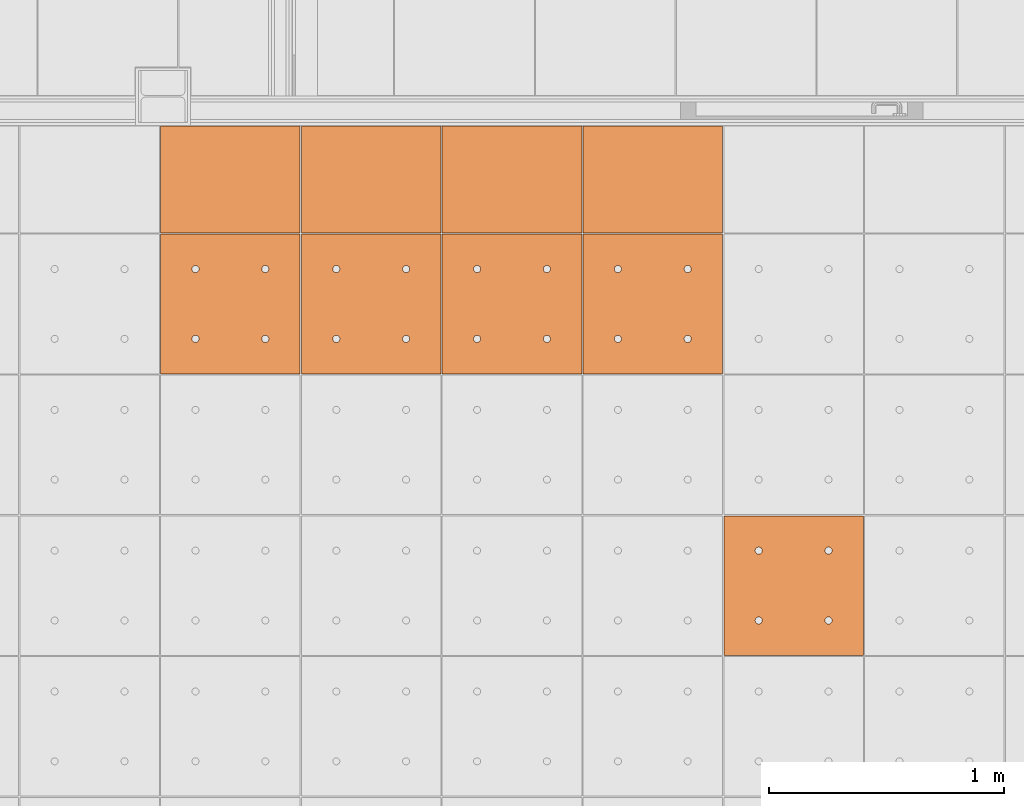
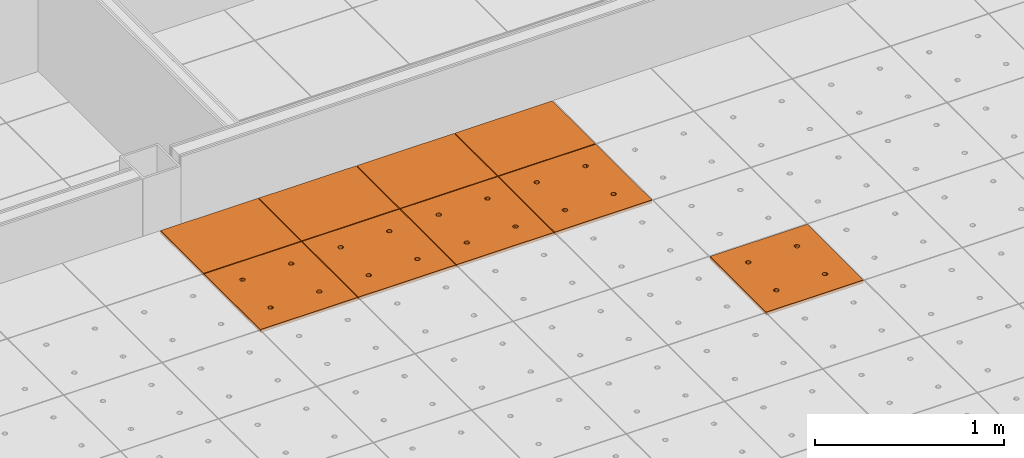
# One storey, part 264 of 338: 9 proxies, 1 element without a shape of its own.
"""IFC2X3 building model written with IfcOpenShell, lengths in millimetres."""

import ifcopenshell
import ifcopenshell.guid

model = None  # the IFC model being written
_history = None  # IfcOwnerHistory: only IFC2X3 demands one
_inside = {}  # id of a spatial element -> (the spatial element, [elements in it])
_under = {}  # id of a project, library or spatial element -> (it, [spatial elements below it])
_declared = {}  # id of a project -> (the project, [libraries it declares])
_typed = {}  # id of a type object -> (the type object, [elements of that type])
_made_of = {}  # id of a material, layer set ... -> (it, [elements and type objects made of it])


def new_model(schema):
    """Start an empty IFC model of exactly this schema.

    Asked for "IFC4X3", IfcOpenShell would pick the latest addendum, in which some entities
    have other attributes; the version numbers below select the first issue.
    IFC2X3 requires an IfcOwnerHistory on every rooted entity: one is made here for all.
    """
    global model, _history
    if schema == "IFC4X3":
        model = ifcopenshell.file(schema_version=(4, 3, 0, 0))
    else:
        model = ifcopenshell.file(schema=schema)
    _inside.clear()
    _under.clear()
    _declared.clear()
    _typed.clear()
    _made_of.clear()
    _history = None
    if model.schema == "IFC2X3":
        org = make("IfcOrganization", Name="unknown")
        user = make(
            "IfcPersonAndOrganization",
            ThePerson=make("IfcPerson", FamilyName="unknown"),
            TheOrganization=org,
        )
        app = make(
            "IfcApplication",
            ApplicationDeveloper=org,
            Version="unknown",
            ApplicationFullName="unknown",
            ApplicationIdentifier="unknown",
        )
        _history = make(
            "IfcOwnerHistory",
            OwningUser=user,
            OwningApplication=app,
            ChangeAction="ADDED",
            CreationDate=0,
        )
    return model


def make(cls, **values):
    """One entity of the class cls with the attributes given. An attribute that is None is left unset."""
    return model.create_entity(
        cls, **{name: value for name, value in values.items() if value is not None}
    )


def entity(cls, *values):
    """Any entity or typed value of the class cls, its attributes in the order of the schema. None: left unset."""
    e = model.create_entity(cls)
    for i, value in enumerate(values):
        if value is not None:
            e[i] = value
    return e


def rooted(cls, **values):
    """An entity with a GlobalId (a new one), such as an element, a storey or a relation."""
    return make(cls, GlobalId=ifcopenshell.guid.new(), OwnerHistory=_history, **values)


def si_unit(unit_type, name, prefix=None):
    """IfcSIUnit, for example si_unit("LENGTHUNIT", "METRE", prefix="MILLI")."""
    return make("IfcSIUnit", UnitType=unit_type, Prefix=prefix, Name=name)


def converted_unit(unit_type, name, factor, base, dimensions=None, offset=None):
    """IfcConversionBasedUnit, such as the inch: factor (a typed value) times the base unit."""
    return make(
        "IfcConversionBasedUnit"
        if offset is None
        else "IfcConversionBasedUnitWithOffset",
        ConversionOffset=offset,
        Dimensions=None
        if dimensions is None
        else entity("IfcDimensionalExponents", *dimensions),
        UnitType=unit_type,
        Name=name,
        ConversionFactor=make(
            "IfcMeasureWithUnit", ValueComponent=factor, UnitComponent=base
        ),
    )


def derived_unit(unit_type, elements):
    """IfcDerivedUnit: a product of units, each with its exponent."""
    return make(
        "IfcDerivedUnit",
        Elements=[
            make("IfcDerivedUnitElement", Unit=unit, Exponent=power)
            for unit, power in elements
        ],
        UnitType=unit_type,
    )


def money_unit(currency):
    """IfcMonetaryUnit."""
    return make("IfcMonetaryUnit", Currency=currency)


def assignment(units):
    """IfcUnitAssignment: the units of a project."""
    return None if units is None else make("IfcUnitAssignment", Units=units)


def point(xyz):
    """IfcCartesianPoint."""
    return None if xyz is None else make("IfcCartesianPoint", Coordinates=xyz)


def direction(xyz):
    """IfcDirection."""
    return None if xyz is None else make("IfcDirection", DirectionRatios=xyz)


def frame(location, z_axis=None, x_axis=None):
    """IfcAxis2Placement3D, a coordinate frame: its origin and axes. An axis left out is left unset."""
    return make(
        "IfcAxis2Placement3D",
        Location=point(location),
        Axis=direction(z_axis),
        RefDirection=direction(x_axis),
    )


def origin_with_axes():
    """The frame at (0, 0, 0) with the z axis (0, 0, 1) and the x axis (1, 0, 0) written out."""
    return frame((0.0, 0.0, 0.0), z_axis=(0.0, 0.0, 1.0), x_axis=(1.0, 0.0, 0.0))


def place(relative_to, where):
    """IfcLocalPlacement: puts the frame where relative to a parent placement (None: the world)."""
    return make(
        "IfcLocalPlacement", PlacementRelTo=relative_to, RelativePlacement=where
    )


def context(
    kind, dimensions, precision=None, world=None, true_north=None, identifier=None
):
    """IfcGeometricRepresentationContext, for example the 3D "Model" context."""
    return make(
        "IfcGeometricRepresentationContext",
        ContextIdentifier=identifier,
        ContextType=kind,
        CoordinateSpaceDimension=dimensions,
        Precision=precision,
        WorldCoordinateSystem=world,
        TrueNorth=true_north,
    )


def subcontext(parent, identifier, kind, view, scale=None):
    """IfcGeometricRepresentationSubContext, for example "Body" below "Model"."""
    return make(
        "IfcGeometricRepresentationSubContext",
        ContextIdentifier=identifier,
        ContextType=kind,
        ParentContext=parent,
        TargetScale=scale,
        TargetView=view,
    )


def project(units=None, contexts=None):
    """IfcProject with its units and contexts."""
    return rooted(
        "IfcProject",
        Name="project",
        RepresentationContexts=contexts,
        UnitsInContext=assignment(units),
    )


def spatial(cls, under=None, at=None, **own):
    """A site, building, storey or space (cls), placed at a placement, below another one or the project."""
    s = rooted(cls, ObjectPlacement=at, **own)
    if under is not None:
        _under.setdefault(under.id(), (under, []))[1].append(s)
    return s


def faces_of(points, faces, orient=None, outer=None):
    """IfcFace entities. A face is a list of loops; a loop is a list of indices into points, from 0.

    orient and outer hold one flag for each loop. By default every Orientation is true, the
    first loop of a face is its IfcFaceOuterBound and the others are IfcFaceBound.
    """
    made = []
    for i, loops in enumerate(faces):
        bounds = []
        for j, loop in enumerate(loops):
            is_outer = j == 0 if outer is None else outer[i][j]
            bounds.append(
                make(
                    "IfcFaceOuterBound" if is_outer else "IfcFaceBound",
                    Bound=make("IfcPolyLoop", Polygon=[points[k] for k in loop]),
                    Orientation=True if orient is None else orient[i][j],
                )
            )
        made.append(make("IfcFace", Bounds=bounds))
    return made


def faceted_brep(points, faces, orient=None, outer=None, voids=None):
    """IfcFacetedBrep: a solid bounded by flat faces; with voids (closed shells), ...WithVoids."""
    shared = [point(p) for p in points]
    hull = make("IfcClosedShell", CfsFaces=faces_of(shared, faces, orient, outer))
    if voids is None:
        return make("IfcFacetedBrep", Outer=hull)
    return make(
        "IfcFacetedBrepWithVoids",
        Outer=hull,
        Voids=[
            make(cls, CfsFaces=faces_of(shared, fs, o, b)) for cls, fs, o, b in voids
        ],
    )


def shape(context_of_items, identifier, shape_type, items):
    """IfcShapeRepresentation: the items that make up one representation, for example the "Body"."""
    return make(
        "IfcShapeRepresentation",
        ContextOfItems=context_of_items,
        RepresentationIdentifier=identifier,
        RepresentationType=shape_type,
        Items=items,
    )


def source(mapping_origin, context_of_items, identifier, shape_type, items):
    """IfcRepresentationMap: a shape defined once, which mapped items show again and again."""
    return make(
        "IfcRepresentationMap",
        MappingOrigin=mapping_origin,
        MappedRepresentation=shape(context_of_items, identifier, shape_type, items),
    )


def transform(
    local_origin,
    x_axis=None,
    y_axis=None,
    z_axis=None,
    scale=None,
    scale2=None,
    scale3=None,
    uniform=True,
):
    """IfcCartesianTransformationOperator3D, or its non-uniform kind. x_axis, y_axis, z_axis: its Axis1, 2, 3."""
    if uniform:
        return make(
            "IfcCartesianTransformationOperator3D",
            Axis1=direction(x_axis),
            Axis2=direction(y_axis),
            LocalOrigin=point(local_origin),
            Scale=scale,
            Axis3=direction(z_axis),
        )
    return make(
        "IfcCartesianTransformationOperator3DnonUniform",
        Axis1=direction(x_axis),
        Axis2=direction(y_axis),
        LocalOrigin=point(local_origin),
        Scale=scale,
        Axis3=direction(z_axis),
        Scale2=scale2,
        Scale3=scale3,
    )


def mapped(mapping_source, mapping_target):
    """IfcMappedItem: shows the shape of a source again, moved by a transform."""
    return make(
        "IfcMappedItem", MappingSource=mapping_source, MappingTarget=mapping_target
    )


def material(Name=None, Category=None):
    """IfcMaterial."""
    return make("IfcMaterial", Name=Name, Category=Category)


def made_of(thing, what):
    """Note that an element or type object is made of a material, layer set ...; save() writes the relation."""
    if what is not None:
        _made_of.setdefault(what.id(), (what, []))[1].append(thing)
    return thing


def type_object(cls, material=None, **own):
    """A type object (cls), such as IfcWallType, which elements share."""
    return made_of(rooted(cls, **own), material)


def type_shapes(of_type, sources):
    """Give a type object the sources (RepresentationMaps) that its elements show as mapped items."""
    of_type.RepresentationMaps = sources


def element(
    cls,
    number,
    at=None,
    inside=None,
    cuts=None,
    type_object=None,
    material=None,
    context=None,
    identifier="Body",
    shape_type=None,
    held_by="IfcProductDefinitionShape",
    body=None,
    shapes=None,
    **own,
):
    """One element of the class cls, such as IfcWall. Its Tag is "e" and its number.

    at: its placement. inside: the storey or other place that contains it. cuts: it is an
    opening in that element (IfcRelVoidsElement). A single representation is given by context,
    identifier, shape_type and body (its items); several are given by shapes. held_by: the class
    of the entity that holds the representations. save() writes the other relations.
    """
    e = rooted(cls, Tag="e%d" % number, ObjectPlacement=at, **own)
    if body is not None:
        shapes = [shape(context, identifier, shape_type, body)]
    if shapes is not None:
        e.Representation = make(held_by, Representations=shapes)
    if inside is not None:
        _inside.setdefault(inside.id(), (inside, []))[1].append(e)
    if cuts is not None:
        rooted(
            "IfcRelVoidsElement", RelatingBuildingElement=cuts, RelatedOpeningElement=e
        )
    if type_object is not None:
        _typed.setdefault(type_object.id(), (type_object, []))[1].append(e)
    return made_of(e, material)


def aggregate(whole, parts):
    """IfcRelAggregates: a whole, such as a stair, and the parts it consists of."""
    return rooted("IfcRelAggregates", RelatingObject=whole, RelatedObjects=parts)


def save(model, path):
    """Write the relations noted so far, then the file.

    IfcRelAggregates (storeys below a building ...), IfcRelContainedInSpatialStructure (elements
    in a storey), IfcRelDefinesByType, IfcRelAssociatesMaterial and IfcRelDeclares: one each for
    every whole, place, type object, material and project.
    """
    for whole, parts in _under.values():
        aggregate(whole, parts)
    for where, things in _inside.values():
        rooted(
            "IfcRelContainedInSpatialStructure",
            RelatedElements=things,
            RelatingStructure=where,
        )
    for kind, things in _typed.values():
        rooted("IfcRelDefinesByType", RelatedObjects=things, RelatingType=kind)
    for what, things in _made_of.values():
        rooted("IfcRelAssociatesMaterial", RelatedObjects=things, RelatingMaterial=what)
    for by, libraries in _declared.values():
        rooted("IfcRelDeclares", RelatingContext=by, RelatedDefinitions=libraries)
    model.write(path)


model = new_model("IFC2X3")

# Units and contexts
model_context = context("Model", 3, precision=0.01, world=origin_with_axes(), true_north=direction((0.0, 1.0)))
plan_context = context("Plan", 3, precision=0.01, world=origin_with_axes(), true_north=direction((0.0, 1.0)))
body_context = subcontext(model_context, "Body", "Model", "MODEL_VIEW")
ifc_project = project(units=[si_unit("LENGTHUNIT", "METRE", prefix="MILLI"), si_unit("AREAUNIT", "SQUARE_METRE"), si_unit("VOLUMEUNIT", "CUBIC_METRE"), converted_unit("PLANEANGLEUNIT", "DEGREE", entity("IfcPlaneAngleMeasure", 0.0174532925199), si_unit("PLANEANGLEUNIT", "RADIAN"), dimensions=[0, 0, 0, 0, 0, 0, 0]), money_unit("EUR"), converted_unit("TIMEUNIT", "Year", entity("IfcTimeMeasure", 31556926.0), si_unit("TIMEUNIT", "SECOND"), dimensions=[0, 0, 1, 0, 0, 0, 0]), si_unit("MASSUNIT", "GRAM", prefix="KILO"), si_unit("THERMODYNAMICTEMPERATUREUNIT", "DEGREE_CELSIUS"), si_unit("LUMINOUSINTENSITYUNIT", "LUMEN"), si_unit("ENERGYUNIT", "JOULE", prefix="MEGA"), derived_unit("THERMALCONDUCTANCEUNIT", [(si_unit("POWERUNIT", "WATT"), 1), (si_unit("LENGTHUNIT", "METRE"), -1), (si_unit("THERMODYNAMICTEMPERATUREUNIT", "KELVIN"), -1)]), derived_unit("SPECIFICHEATCAPACITYUNIT", [(si_unit("ENERGYUNIT", "JOULE"), 1), (si_unit("MASSUNIT", "GRAM", prefix="KILO"), -1), (si_unit("THERMODYNAMICTEMPERATUREUNIT", "KELVIN"), -1)]), derived_unit("MASSDENSITYUNIT", [(si_unit("MASSUNIT", "GRAM", prefix="KILO"), 1), (si_unit("VOLUMEUNIT", "CUBIC_METRE"), -1)])], contexts=[model_context, plan_context])

# Site, building, storey
site_placement = place(None, origin_with_axes())
site = spatial("IfcSite", under=ifc_project, at=site_placement, Name="Fortuinstraat Woensdrecht", CompositionType="ELEMENT")
building_placement = place(site_placement, origin_with_axes())
building = spatial("IfcBuilding", under=site, at=building_placement, Name="IKC Fortuna", CompositionType="ELEMENT")
storey_placement = place(building_placement, origin_with_axes())
storey = spatial("IfcBuildingStorey", under=building, at=storey_placement, Name="00 begane grond", CompositionType="ELEMENT", Elevation=0.0)

# Covering, proxies
covering_type = type_object("IfcCoveringType", Name="Curtain Wall Type", PredefinedType="CEILING")
covering_placement = place(storey_placement, frame((31656.9226967, 15748.5304598, 3210.0), z_axis=(0.0, 0.0, 1.0), x_axis=(1.0, 0.0, 0.0)))
covering = element("IfcCovering", 1, at=covering_placement, inside=storey, type_object=covering_type, Name="45_Plafondafwerking_P01", PredefinedType="CEILING")
ifc_material = material(Name="Gipsplaat")
building_element_proxy_type_1 = type_object("IfcBuildingElementProxyType", Name="Main Panel 600 x 600 x 20", PredefinedType="NOTDEFINED")
shared_shape_1 = source(origin_with_axes(), body_context, "Body", "Brep", [
    faceted_brep([(2.49999999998, 2.49999999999, -10.0), (300.0, 2.49999999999, -10.0), (300.0, 2.49999999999, 10.0), (2.49999999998, 2.49999999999, 10.0), (2.49999999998, 300.0, -10.0), (2.49999999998, 597.5, -10.0), (300.0, 597.5, -10.0), (597.5, 597.5, -10.0), (597.5, 300.0, -10.0), (597.5, 2.49999999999, -10.0), (166.25, 450.06232995, -10.0), (165.79423259, 452.64711538, -10.0), (164.896546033, 455.11348892, -10.0), (163.58421608, 457.38651108, -10.0), (161.897117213, 459.39711721, -10.0), (159.886511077, 461.08421608, -10.0), (157.613488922, 462.39654603, -10.0), (155.147115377, 463.29423259, -10.0), (152.562329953, 463.75, -10.0), (149.937670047, 463.75, -10.0), (147.352884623, 463.29423259, -10.0), (144.886511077, 462.39654603, -10.0), (142.613488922, 461.08421608, -10.0), (140.602882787, 459.39711721, -10.0), (138.91578392, 457.38651108, -10.0), (137.603453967, 455.11348892, -10.0), (136.705767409, 452.64711538, -10.0), (136.25, 450.06232995, -10.0), (136.25, 448.75, -10.0), (136.25, 447.43767005, -10.0), (136.705767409, 444.85288462, -10.0), (137.603453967, 442.38651108, -10.0), (138.91578392, 440.11348892, -10.0), (140.602882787, 438.10288279, -10.0), (142.613488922, 436.41578392, -10.0), (144.886511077, 435.10345397, -10.0), (147.352884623, 434.20576741, -10.0), (149.937670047, 433.75, -10.0), (152.562329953, 433.75, -10.0), (155.147115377, 434.20576741, -10.0), (157.613488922, 435.10345397, -10.0), (159.886511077, 436.41578392, -10.0), (161.897117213, 438.10288279, -10.0), (163.58421608, 440.11348892, -10.0), (164.896546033, 442.38651108, -10.0), (165.79423259, 444.85288462, -10.0), (166.25, 447.43767005, -10.0), (463.75, 450.06232995, -10.0), (463.29423259, 452.64711538, -10.0), (462.396546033, 455.11348892, -10.0), (461.08421608, 457.38651108, -10.0), (459.397117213, 459.39711721, -10.0), (457.386511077, 461.08421608, -10.0), (455.113488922, 462.39654603, -10.0), (452.647115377, 463.29423259, -10.0), (450.062329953, 463.75, -10.0), (447.437670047, 463.75, -10.0), (444.852884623, 463.29423259, -10.0), (442.386511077, 462.39654603, -10.0), (440.113488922, 461.08421608, -10.0), (438.102882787, 459.39711721, -10.0), (436.41578392, 457.38651108, -10.0), (435.103453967, 455.11348892, -10.0), (434.205767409, 452.64711538, -10.0), (433.75, 450.06232995, -10.0), (433.75, 448.75, -10.0), (433.75, 447.43767005, -10.0), (434.205767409, 444.85288462, -10.0), (435.103453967, 442.38651108, -10.0), (436.41578392, 440.11348892, -10.0), (438.102882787, 438.10288279, -10.0), (440.113488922, 436.41578392, -10.0), (442.386511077, 435.10345397, -10.0), (444.852884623, 434.20576741, -10.0), (447.437670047, 433.75, -10.0), (450.062329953, 433.75, -10.0), (452.647115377, 434.20576741, -10.0), (455.113488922, 435.10345397, -10.0), (457.386511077, 436.41578392, -10.0), (459.397117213, 438.10288279, -10.0), (461.08421608, 440.11348892, -10.0), (462.396546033, 442.38651108, -10.0), (463.29423259, 444.85288462, -10.0), (463.75, 447.43767005, -10.0), (463.75, 152.56232995, -10.0), (463.29423259, 155.14711538, -10.0), (462.396546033, 157.61348892, -10.0), (461.08421608, 159.88651108, -10.0), (459.397117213, 161.89711721, -10.0), (457.386511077, 163.58421608, -10.0), (455.113488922, 164.89654603, -10.0), (452.647115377, 165.79423259, -10.0), (450.062329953, 166.25, -10.0), (447.437670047, 166.25, -10.0), (444.852884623, 165.79423259, -10.0), (442.386511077, 164.89654603, -10.0), (440.113488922, 163.58421608, -10.0), (438.102882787, 161.89711721, -10.0), (436.41578392, 159.88651108, -10.0), (435.103453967, 157.61348892, -10.0), (434.205767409, 155.14711538, -10.0), (433.75, 152.56232995, -10.0), (433.75, 151.25, -10.0), (433.75, 149.93767005, -10.0), (434.205767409, 147.35288462, -10.0), (435.103453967, 144.88651108, -10.0), (436.41578392, 142.61348892, -10.0), (438.102882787, 140.60288279, -10.0), (440.113488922, 138.91578392, -10.0), (442.386511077, 137.60345397, -10.0), (444.852884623, 136.70576741, -10.0), (447.437670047, 136.25, -10.0), (450.062329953, 136.25, -10.0), (452.647115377, 136.70576741, -10.0), (455.113488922, 137.60345397, -10.0), (457.386511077, 138.91578392, -10.0), (459.397117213, 140.60288279, -10.0), (461.08421608, 142.61348892, -10.0), (462.396546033, 144.88651108, -10.0), (463.29423259, 147.35288462, -10.0), (463.75, 149.93767005, -10.0), (166.25, 152.56232995, -10.0), (165.79423259, 155.14711538, -10.0), (164.896546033, 157.61348892, -10.0), (163.58421608, 159.88651108, -10.0), (161.897117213, 161.89711721, -10.0), (159.886511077, 163.58421608, -10.0), (157.613488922, 164.89654603, -10.0), (155.147115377, 165.79423259, -10.0), (152.562329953, 166.25, -10.0), (149.937670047, 166.25, -10.0), (147.352884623, 165.79423259, -10.0), (144.886511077, 164.89654603, -10.0), (142.613488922, 163.58421608, -10.0), (140.602882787, 161.89711721, -10.0), (138.91578392, 159.88651108, -10.0), (137.603453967, 157.61348892, -10.0), (136.705767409, 155.14711538, -10.0), (136.25, 152.56232995, -10.0), (136.25, 151.25, -10.0), (136.25, 149.93767005, -10.0), (136.705767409, 147.35288462, -10.0), (137.603453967, 144.88651108, -10.0), (138.91578392, 142.61348892, -10.0), (140.602882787, 140.60288279, -10.0), (142.613488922, 138.91578392, -10.0), (144.886511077, 137.60345397, -10.0), (147.352884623, 136.70576741, -10.0), (149.937670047, 136.25, -10.0), (152.562329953, 136.25, -10.0), (155.147115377, 136.70576741, -10.0), (157.613488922, 137.60345397, -10.0), (159.886511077, 138.91578392, -10.0), (161.897117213, 140.60288279, -10.0), (163.58421608, 142.61348892, -10.0), (164.896546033, 144.88651108, -10.0), (165.79423259, 147.35288462, -10.0), (166.25, 149.93767005, -10.0), (597.5, 2.49999999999, 10.0), (597.5, 300.0, 10.0), (597.5, 597.5, 10.0), (300.0, 597.5, 10.0), (2.49999999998, 597.5, 10.0), (2.49999999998, 300.0, 10.0), (166.25, 450.06232995, 10.0), (166.25, 447.43767005, 10.0), (165.79423259, 444.85288462, 10.0), (164.896546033, 442.38651108, 10.0), (163.58421608, 440.11348892, 10.0), (161.897117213, 438.10288279, 10.0), (159.886511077, 436.41578392, 10.0), (157.613488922, 435.10345397, 10.0), (155.147115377, 434.20576741, 10.0), (152.562329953, 433.75, 10.0), (149.937670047, 433.75, 10.0), (147.352884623, 434.20576741, 10.0), (144.886511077, 435.10345397, 10.0), (142.613488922, 436.41578392, 10.0), (140.602882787, 438.10288279, 10.0), (138.91578392, 440.11348892, 10.0), (137.603453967, 442.38651108, 10.0), (136.705767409, 444.85288462, 10.0), (136.25, 447.43767005, 10.0), (136.25, 448.75, 10.0), (136.25, 450.06232995, 10.0), (136.705767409, 452.64711538, 10.0), (137.603453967, 455.11348892, 10.0), (138.91578392, 457.38651108, 10.0), (140.602882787, 459.39711721, 10.0), (142.613488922, 461.08421608, 10.0), (144.886511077, 462.39654603, 10.0), (147.352884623, 463.29423259, 10.0), (149.937670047, 463.75, 10.0), (152.562329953, 463.75, 10.0), (155.147115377, 463.29423259, 10.0), (157.613488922, 462.39654603, 10.0), (159.886511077, 461.08421608, 10.0), (161.897117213, 459.39711721, 10.0), (163.58421608, 457.38651108, 10.0), (164.896546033, 455.11348892, 10.0), (165.79423259, 452.64711538, 10.0), (463.75, 450.06232995, 10.0), (463.75, 447.43767005, 10.0), (463.29423259, 444.85288462, 10.0), (462.396546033, 442.38651108, 10.0), (461.08421608, 440.11348892, 10.0), (459.397117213, 438.10288279, 10.0), (457.386511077, 436.41578392, 10.0), (455.113488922, 435.10345397, 10.0), (452.647115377, 434.20576741, 10.0), (450.062329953, 433.75, 10.0), (447.437670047, 433.75, 10.0), (444.852884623, 434.20576741, 10.0), (442.386511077, 435.10345397, 10.0), (440.113488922, 436.41578392, 10.0), (438.102882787, 438.10288279, 10.0), (436.41578392, 440.11348892, 10.0), (435.103453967, 442.38651108, 10.0), (434.205767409, 444.85288462, 10.0), (433.75, 447.43767005, 10.0), (433.75, 448.75, 10.0), (433.75, 450.06232995, 10.0), (434.205767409, 452.64711538, 10.0), (435.103453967, 455.11348892, 10.0), (436.41578392, 457.38651108, 10.0), (438.102882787, 459.39711721, 10.0), (440.113488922, 461.08421608, 10.0), (442.386511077, 462.39654603, 10.0), (444.852884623, 463.29423259, 10.0), (447.437670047, 463.75, 10.0), (450.062329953, 463.75, 10.0), (452.647115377, 463.29423259, 10.0), (455.113488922, 462.39654603, 10.0), (457.386511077, 461.08421608, 10.0), (459.397117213, 459.39711721, 10.0), (461.08421608, 457.38651108, 10.0), (462.396546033, 455.11348892, 10.0), (463.29423259, 452.64711538, 10.0), (463.75, 152.56232995, 10.0), (463.75, 149.93767005, 10.0), (463.29423259, 147.35288462, 10.0), (462.396546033, 144.88651108, 10.0), (461.08421608, 142.61348892, 10.0), (459.397117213, 140.60288279, 10.0), (457.386511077, 138.91578392, 10.0), (455.113488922, 137.60345397, 10.0), (452.647115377, 136.70576741, 10.0), (450.062329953, 136.25, 10.0), (447.437670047, 136.25, 10.0), (444.852884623, 136.70576741, 10.0), (442.386511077, 137.60345397, 10.0), (440.113488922, 138.91578392, 10.0), (438.102882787, 140.60288279, 10.0), (436.41578392, 142.61348892, 10.0), (435.103453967, 144.88651108, 10.0), (434.205767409, 147.35288462, 10.0), (433.75, 149.93767005, 10.0), (433.75, 151.25, 10.0), (433.75, 152.56232995, 10.0), (434.205767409, 155.14711538, 10.0), (435.103453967, 157.61348892, 10.0), (436.41578392, 159.88651108, 10.0), (438.102882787, 161.89711721, 10.0), (440.113488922, 163.58421608, 10.0), (442.386511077, 164.89654603, 10.0), (444.852884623, 165.79423259, 10.0), (447.437670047, 166.25, 10.0), (450.062329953, 166.25, 10.0), (452.647115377, 165.79423259, 10.0), (455.113488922, 164.89654603, 10.0), (457.386511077, 163.58421608, 10.0), (459.397117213, 161.89711721, 10.0), (461.08421608, 159.88651108, 10.0), (462.396546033, 157.61348892, 10.0), (463.29423259, 155.14711538, 10.0), (166.25, 152.56232995, 10.0), (166.25, 149.93767005, 10.0), (165.79423259, 147.35288462, 10.0), (164.896546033, 144.88651108, 10.0), (163.58421608, 142.61348892, 10.0), (161.897117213, 140.60288279, 10.0), (159.886511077, 138.91578392, 10.0), (157.613488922, 137.60345397, 10.0), (155.147115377, 136.70576741, 10.0), (152.562329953, 136.25, 10.0), (149.937670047, 136.25, 10.0), (147.352884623, 136.70576741, 10.0), (144.886511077, 137.60345397, 10.0), (142.613488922, 138.91578392, 10.0), (140.602882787, 140.60288279, 10.0), (138.91578392, 142.61348892, 10.0), (137.603453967, 144.88651108, 10.0), (136.705767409, 147.35288462, 10.0), (136.25, 149.93767005, 10.0), (136.25, 151.25, 10.0), (136.25, 152.56232995, 10.0), (136.705767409, 155.14711538, 10.0), (137.603453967, 157.61348892, 10.0), (138.91578392, 159.88651108, 10.0), (140.602882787, 161.89711721, 10.0), (142.613488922, 163.58421608, 10.0), (144.886511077, 164.89654603, 10.0), (147.352884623, 165.79423259, 10.0), (149.937670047, 166.25, 10.0), (152.562329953, 166.25, 10.0), (155.147115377, 165.79423259, 10.0), (157.613488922, 164.89654603, 10.0), (159.886511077, 163.58421608, 10.0), (161.897117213, 161.89711721, 10.0), (163.58421608, 159.88651108, 10.0), (164.896546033, 157.61348892, 10.0), (165.79423259, 155.14711538, 10.0)], [[[0, 1, 2, 3]], [[0, 4, 5, 6, 7, 8, 9, 1], [10, 11, 12, 13, 14, 15, 16, 17, 18, 19, 20, 21, 22, 23, 24, 25, 26, 27, 28, 29, 30, 31, 32, 33, 34, 35, 36, 37, 38, 39, 40, 41, 42, 43, 44, 45, 46], [47, 48, 49, 50, 51, 52, 53, 54, 55, 56, 57, 58, 59, 60, 61, 62, 63, 64, 65, 66, 67, 68, 69, 70, 71, 72, 73, 74, 75, 76, 77, 78, 79, 80, 81, 82, 83], [84, 85, 86, 87, 88, 89, 90, 91, 92, 93, 94, 95, 96, 97, 98, 99, 100, 101, 102, 103, 104, 105, 106, 107, 108, 109, 110, 111, 112, 113, 114, 115, 116, 117, 118, 119, 120], [121, 122, 123, 124, 125, 126, 127, 128, 129, 130, 131, 132, 133, 134, 135, 136, 137, 138, 139, 140, 141, 142, 143, 144, 145, 146, 147, 148, 149, 150, 151, 152, 153, 154, 155, 156, 157]], [[1, 9, 158, 2]], [[3, 2, 158, 159, 160, 161, 162, 163], [164, 165, 166, 167, 168, 169, 170, 171, 172, 173, 174, 175, 176, 177, 178, 179, 180, 181, 182, 183, 184, 185, 186, 187, 188, 189, 190, 191, 192, 193, 194, 195, 196, 197, 198, 199, 200], [201, 202, 203, 204, 205, 206, 207, 208, 209, 210, 211, 212, 213, 214, 215, 216, 217, 218, 219, 220, 221, 222, 223, 224, 225, 226, 227, 228, 229, 230, 231, 232, 233, 234, 235, 236, 237], [238, 239, 240, 241, 242, 243, 244, 245, 246, 247, 248, 249, 250, 251, 252, 253, 254, 255, 256, 257, 258, 259, 260, 261, 262, 263, 264, 265, 266, 267, 268, 269, 270, 271, 272, 273, 274], [275, 276, 277, 278, 279, 280, 281, 282, 283, 284, 285, 286, 287, 288, 289, 290, 291, 292, 293, 294, 295, 296, 297, 298, 299, 300, 301, 302, 303, 304, 305, 306, 307, 308, 309, 310, 311]], [[4, 0, 3, 163]], [[5, 4, 163, 162]], [[6, 5, 162, 161]], [[7, 6, 161, 160]], [[8, 7, 160, 159]], [[9, 8, 159, 158]], [[11, 10, 164, 200]], [[12, 11, 200, 199]], [[13, 12, 199, 198]], [[14, 13, 198, 197]], [[15, 14, 197, 196]], [[16, 15, 196, 195]], [[17, 16, 195, 194]], [[18, 17, 194, 193]], [[19, 18, 193, 192]], [[20, 19, 192, 191]], [[21, 20, 191, 190]], [[22, 21, 190, 189]], [[23, 22, 189, 188]], [[24, 23, 188, 187]], [[25, 24, 187, 186]], [[26, 25, 186, 185]], [[27, 26, 185, 184]], [[28, 27, 184, 183]], [[29, 28, 183, 182]], [[30, 29, 182, 181]], [[31, 30, 181, 180]], [[32, 31, 180, 179]], [[33, 32, 179, 178]], [[34, 33, 178, 177]], [[35, 34, 177, 176]], [[36, 35, 176, 175]], [[37, 36, 175, 174]], [[38, 37, 174, 173]], [[39, 38, 173, 172]], [[40, 39, 172, 171]], [[41, 40, 171, 170]], [[42, 41, 170, 169]], [[43, 42, 169, 168]], [[44, 43, 168, 167]], [[45, 44, 167, 166]], [[46, 45, 166, 165]], [[10, 46, 165, 164]], [[48, 47, 201, 237]], [[49, 48, 237, 236]], [[50, 49, 236, 235]], [[51, 50, 235, 234]], [[52, 51, 234, 233]], [[53, 52, 233, 232]], [[54, 53, 232, 231]], [[55, 54, 231, 230]], [[56, 55, 230, 229]], [[57, 56, 229, 228]], [[58, 57, 228, 227]], [[59, 58, 227, 226]], [[60, 59, 226, 225]], [[61, 60, 225, 224]], [[62, 61, 224, 223]], [[63, 62, 223, 222]], [[64, 63, 222, 221]], [[65, 64, 221, 220]], [[66, 65, 220, 219]], [[67, 66, 219, 218]], [[68, 67, 218, 217]], [[69, 68, 217, 216]], [[70, 69, 216, 215]], [[71, 70, 215, 214]], [[72, 71, 214, 213]], [[73, 72, 213, 212]], [[74, 73, 212, 211]], [[75, 74, 211, 210]], [[76, 75, 210, 209]], [[77, 76, 209, 208]], [[78, 77, 208, 207]], [[79, 78, 207, 206]], [[80, 79, 206, 205]], [[81, 80, 205, 204]], [[82, 81, 204, 203]], [[83, 82, 203, 202]], [[47, 83, 202, 201]], [[85, 84, 238, 274]], [[86, 85, 274, 273]], [[87, 86, 273, 272]], [[88, 87, 272, 271]], [[89, 88, 271, 270]], [[90, 89, 270, 269]], [[91, 90, 269, 268]], [[92, 91, 268, 267]], [[93, 92, 267, 266]], [[94, 93, 266, 265]], [[95, 94, 265, 264]], [[96, 95, 264, 263]], [[97, 96, 263, 262]], [[98, 97, 262, 261]], [[99, 98, 261, 260]], [[100, 99, 260, 259]], [[101, 100, 259, 258]], [[102, 101, 258, 257]], [[103, 102, 257, 256]], [[104, 103, 256, 255]], [[105, 104, 255, 254]], [[106, 105, 254, 253]], [[107, 106, 253, 252]], [[108, 107, 252, 251]], [[109, 108, 251, 250]], [[110, 109, 250, 249]], [[111, 110, 249, 248]], [[112, 111, 248, 247]], [[113, 112, 247, 246]], [[114, 113, 246, 245]], [[115, 114, 245, 244]], [[116, 115, 244, 243]], [[117, 116, 243, 242]], [[118, 117, 242, 241]], [[119, 118, 241, 240]], [[120, 119, 240, 239]], [[84, 120, 239, 238]], [[122, 121, 275, 311]], [[123, 122, 311, 310]], [[124, 123, 310, 309]], [[125, 124, 309, 308]], [[126, 125, 308, 307]], [[127, 126, 307, 306]], [[128, 127, 306, 305]], [[129, 128, 305, 304]], [[130, 129, 304, 303]], [[131, 130, 303, 302]], [[132, 131, 302, 301]], [[133, 132, 301, 300]], [[134, 133, 300, 299]], [[135, 134, 299, 298]], [[136, 135, 298, 297]], [[137, 136, 297, 296]], [[138, 137, 296, 295]], [[139, 138, 295, 294]], [[140, 139, 294, 293]], [[141, 140, 293, 292]], [[142, 141, 292, 291]], [[143, 142, 291, 290]], [[144, 143, 290, 289]], [[145, 144, 289, 288]], [[146, 145, 288, 287]], [[147, 146, 287, 286]], [[148, 147, 286, 285]], [[149, 148, 285, 284]], [[150, 149, 284, 283]], [[151, 150, 283, 282]], [[152, 151, 282, 281]], [[153, 152, 281, 280]], [[154, 153, 280, 279]], [[155, 154, 279, 278]], [[156, 155, 278, 277]], [[157, 156, 277, 276]], [[121, 157, 276, 275]]]),
])
type_shapes(building_element_proxy_type_1, [shared_shape_1])
proxy_1_placement = place(covering_placement, origin_with_axes())
proxy_1 = element("IfcBuildingElementProxy", 2, at=proxy_1_placement, type_object=building_element_proxy_type_1, material=ifc_material, Name="__600x600 Rockfon Krios", context=body_context, shape_type="MappedRepresentation", body=[
    mapped(shared_shape_1, transform((300.0, 300.0, 0.0), x_axis=(-1.0, 0.0, 0.0), y_axis=(0.0, -1.0, 0.0), z_axis=(0.0, 0.0, 1.0))),
])
proxy_2_placement = place(covering_placement, frame((-600.0, 1200.0, 1.15907283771e-10), z_axis=(0.0, 0.0, 1.0), x_axis=(1.0, 0.0, 0.0)))
proxy_2 = element("IfcBuildingElementProxy", 3, at=proxy_2_placement, type_object=building_element_proxy_type_1, material=ifc_material, Name="__600x635 Rockfon Krios", context=body_context, shape_type="MappedRepresentation", body=[
    mapped(shared_shape_1, transform((300.0, 300.0, 0.0), x_axis=(-1.0, 0.0, 0.0), y_axis=(0.0, -1.0, 0.0), z_axis=(0.0, 0.0, 1.0))),
])
proxy_3_placement = place(covering_placement, frame((-1200.0, 1200.0, 1.35891298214e-10), z_axis=(0.0, 0.0, 1.0), x_axis=(1.0, 0.0, 0.0)))
proxy_3 = element("IfcBuildingElementProxy", 4, at=proxy_3_placement, type_object=building_element_proxy_type_1, material=ifc_material, Name="__600x639 Rockfon Krios", context=body_context, shape_type="MappedRepresentation", body=[
    mapped(shared_shape_1, transform((300.0, 300.0, 0.0), x_axis=(-1.0, 0.0, 0.0), y_axis=(0.0, -1.0, 0.0), z_axis=(0.0, 0.0, 1.0))),
])
proxy_4_placement = place(covering_placement, frame((-1800.0, 1200.0, 1.55431223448e-10), z_axis=(0.0, 0.0, 1.0), x_axis=(1.0, 0.0, 0.0)))
proxy_4 = element("IfcBuildingElementProxy", 5, at=proxy_4_placement, type_object=building_element_proxy_type_1, material=ifc_material, Name="__600x643 Rockfon Krios", context=body_context, shape_type="MappedRepresentation", body=[
    mapped(shared_shape_1, transform((300.0, 300.0, 0.0), x_axis=(-1.0, 0.0, 0.0), y_axis=(0.0, -1.0, 0.0), z_axis=(0.0, 0.0, 1.0))),
])
proxy_5_placement = place(covering_placement, frame((-2400.0, 1200.0, 1.74971148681e-10), z_axis=(0.0, 0.0, 1.0), x_axis=(1.0, 0.0, 0.0)))
proxy_5 = element("IfcBuildingElementProxy", 6, at=proxy_5_placement, type_object=building_element_proxy_type_1, material=ifc_material, Name="__600x647 Rockfon Krios", context=body_context, shape_type="MappedRepresentation", body=[
    mapped(shared_shape_1, transform((300.0, 300.0, 0.0), x_axis=(-1.0, 0.0, 0.0), y_axis=(0.0, -1.0, 0.0), z_axis=(0.0, 0.0, 1.0))),
])
building_element_proxy_type_2 = type_object("IfcBuildingElementProxyType", Name="600 x 461 x 20", PredefinedType="NOTDEFINED")
shared_shape_2 = source(origin_with_axes(), body_context, "Body", "Brep", [
    faceted_brep([(2.5, 141.233853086, -10.0), (597.5, 141.233853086, -10.0), (597.5, 141.233853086, 10.0), (2.5, 141.233853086, 10.0), (2.50000000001, 597.5, -10.0), (597.5, 597.5, -10.0), (597.5, 597.5, 10.0), (2.50000000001, 597.5, 10.0)], [[[0, 1, 2, 3]], [[0, 4, 5, 1]], [[1, 5, 6, 2]], [[3, 2, 6, 7]], [[4, 0, 3, 7]], [[5, 4, 7, 6]]]),
])
type_shapes(building_element_proxy_type_2, [shared_shape_2])
proxy_6_placement = place(covering_placement, frame((-1200.0, 1730.63307755, 1.35891298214e-10), z_axis=(0.0, 0.0, 1.0), x_axis=(1.0, 0.0, 0.0)))
proxy_6 = element("IfcBuildingElementProxy", 7, at=proxy_6_placement, type_object=building_element_proxy_type_2, material=ifc_material, Name="__600x641 Rockfon Krios", context=body_context, shape_type="MappedRepresentation", body=[
    mapped(shared_shape_2, transform((300.0, 369.366938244, 0.0), x_axis=(-1.0, 0.0, 0.0), y_axis=(0.0, -1.0, 0.0), z_axis=(0.0, 0.0, 1.0))),
])
proxy_7_placement = place(covering_placement, frame((-600.0, 1730.63307755, 1.15907283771e-10), z_axis=(0.0, 0.0, 1.0), x_axis=(1.0, 0.0, 0.0)))
proxy_7 = element("IfcBuildingElementProxy", 8, at=proxy_7_placement, type_object=building_element_proxy_type_2, material=ifc_material, Name="__600x642 Rockfon Krios", context=body_context, shape_type="MappedRepresentation", body=[
    mapped(shared_shape_2, transform((300.0, 369.366938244, 0.0), x_axis=(-1.0, 0.0, 0.0), y_axis=(0.0, -1.0, 0.0), z_axis=(0.0, 0.0, 1.0))),
])
proxy_8_placement = place(covering_placement, frame((-1800.0, 1730.63307755, 1.55431223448e-10), z_axis=(0.0, 0.0, 1.0), x_axis=(1.0, 0.0, 0.0)))
proxy_8 = element("IfcBuildingElementProxy", 9, at=proxy_8_placement, type_object=building_element_proxy_type_2, material=ifc_material, Name="__600x645 Rockfon Krios", context=body_context, shape_type="MappedRepresentation", body=[
    mapped(shared_shape_2, transform((300.0, 369.366938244, 0.0), x_axis=(-1.0, 0.0, 0.0), y_axis=(0.0, -1.0, 0.0), z_axis=(0.0, 0.0, 1.0))),
])
proxy_9_placement = place(covering_placement, frame((-2400.0, 1730.63307755, 1.74971148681e-10), z_axis=(0.0, 0.0, 1.0), x_axis=(1.0, 0.0, 0.0)))
proxy_9 = element("IfcBuildingElementProxy", 10, at=proxy_9_placement, type_object=building_element_proxy_type_2, material=ifc_material, Name="__600x657 Rockfon Krios", context=body_context, shape_type="MappedRepresentation", body=[
    mapped(shared_shape_2, transform((300.0, 369.366938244, 0.0), x_axis=(-1.0, 0.0, 0.0), y_axis=(0.0, -1.0, 0.0), z_axis=(0.0, 0.0, 1.0))),
])
aggregate(covering, [proxy_1, proxy_2, proxy_3, proxy_6, proxy_7, proxy_4, proxy_8, proxy_5, proxy_9])

save(model, "model.ifc")
